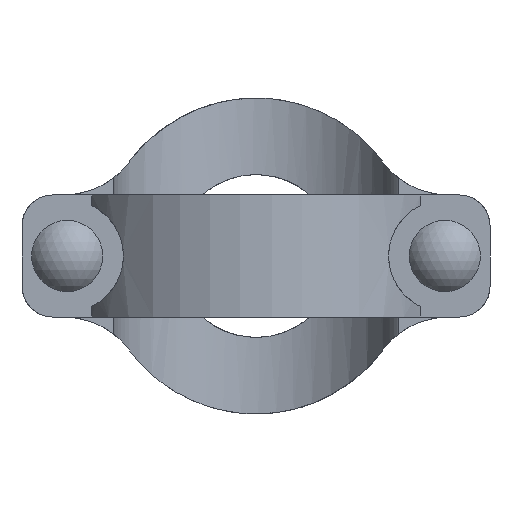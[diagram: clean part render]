
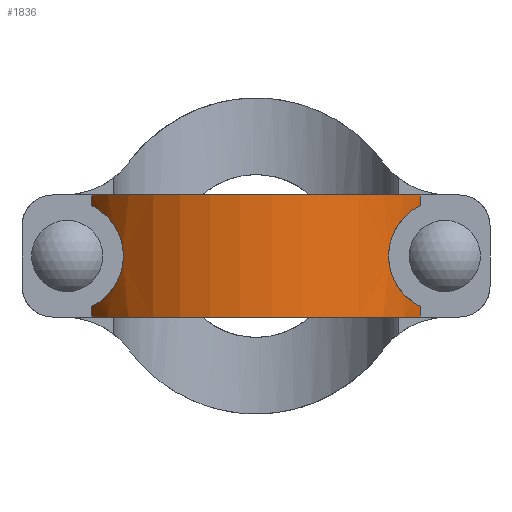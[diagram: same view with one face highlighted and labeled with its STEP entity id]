
A CAD part, front view. The second image highlights one B-rep face of the part: STEP entity #1836.
In plain terms, the highlighted cylindrical face has radius 57.15 mm (diameter 114.3 mm), a partial arc.
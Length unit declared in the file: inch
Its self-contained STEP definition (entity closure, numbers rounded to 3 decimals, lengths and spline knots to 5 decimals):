
#66=B_SPLINE_CURVE_WITH_KNOTS('',3,(#2702,#2703,#2704,#2705,#2706,#2707,
#2708,#2709,#2710,#2711,#2712,#2713,#2714,#2715,#2716,#2717,#2718,#2719,
#2720,#2721,#2722,#2723,#2724,#2725,#2726,#2727,#2728,#2729,#2730,#2731),
 .UNSPECIFIED.,.F.,.F.,(4,2,2,2,2,2,2,2,2,2,2,2,2,2,4),(1.03848,
1.21614,1.82421,2.43228,2.695,2.95772,
3.22043,3.48315,3.74587,4.00859,4.27131,
4.53403,5.1421,5.75017,5.92782),
 .UNSPECIFIED.);
#78=B_SPLINE_CURVE_WITH_KNOTS('',3,(#3223,#3224,#3225,#3226,#3227,#3228,
#3229,#3230,#3231,#3232,#3233,#3234,#3235,#3236,#3237,#3238,#3239,#3240,
#3241,#3242,#3243,#3244,#3245,#3246,#3247,#3248,#3249,#3250,#3251,#3252),
 .UNSPECIFIED.,.F.,.F.,(4,2,2,2,2,2,2,2,2,2,2,2,2,2,4),(1.03848,
1.21614,1.82421,2.43228,2.695,2.95772,
3.22043,3.48315,3.74587,4.00859,4.27131,
4.53403,5.1421,5.75017,5.92782),
 .UNSPECIFIED.);
#109=CYLINDRICAL_SURFACE('',#2005,2.25);
#194=FACE_OUTER_BOUND('',#291,.T.);
#291=EDGE_LOOP('',(#1417,#1418,#1419,#1420,#1421,#1422,#1423,#1424));
#434=LINE('',#3332,#581);
#435=LINE('',#3335,#582);
#436=LINE('',#3336,#583);
#437=LINE('',#3337,#584);
#581=VECTOR('',#2416,0.3937);
#582=VECTOR('',#2419,0.3937);
#583=VECTOR('',#2420,0.3937);
#584=VECTOR('',#2421,0.3937);
#674=CIRCLE('',#2004,2.25);
#675=CIRCLE('',#2006,2.25);
#727=VERTEX_POINT('',#2700);
#728=VERTEX_POINT('',#2701);
#796=VERTEX_POINT('',#3221);
#797=VERTEX_POINT('',#3222);
#820=VERTEX_POINT('',#3325);
#821=VERTEX_POINT('',#3327);
#822=VERTEX_POINT('',#3331);
#823=VERTEX_POINT('',#3333);
#911=EDGE_CURVE('',#727,#728,#66,.T.);
#1003=EDGE_CURVE('',#796,#797,#78,.T.);
#1042=EDGE_CURVE('',#820,#821,#674,.T.);
#1044=EDGE_CURVE('',#822,#728,#434,.T.);
#1045=EDGE_CURVE('',#823,#822,#675,.T.);
#1046=EDGE_CURVE('',#796,#823,#435,.T.);
#1047=EDGE_CURVE('',#821,#797,#436,.T.);
#1048=EDGE_CURVE('',#727,#820,#437,.T.);
#1417=ORIENTED_EDGE('',*,*,#911,.T.);
#1418=ORIENTED_EDGE('',*,*,#1044,.F.);
#1419=ORIENTED_EDGE('',*,*,#1045,.F.);
#1420=ORIENTED_EDGE('',*,*,#1046,.F.);
#1421=ORIENTED_EDGE('',*,*,#1003,.T.);
#1422=ORIENTED_EDGE('',*,*,#1047,.F.);
#1423=ORIENTED_EDGE('',*,*,#1042,.F.);
#1424=ORIENTED_EDGE('',*,*,#1048,.F.);
#1836=ADVANCED_FACE('',(#194),#109,.T.);
#2004=AXIS2_PLACEMENT_3D('',#3328,#2411,#2412);
#2005=AXIS2_PLACEMENT_3D('',#3330,#2414,#2415);
#2006=AXIS2_PLACEMENT_3D('',#3334,#2417,#2418);
#2411=DIRECTION('center_axis',(0.,0.,1.));
#2412=DIRECTION('ref_axis',(-0.896,-0.444,0.));
#2414=DIRECTION('center_axis',(0.,0.,1.));
#2415=DIRECTION('ref_axis',(-0.896,-0.444,0.));
#2416=DIRECTION('',(0.,0.,1.));
#2417=DIRECTION('center_axis',(0.,0.,-1.));
#2418=DIRECTION('ref_axis',(-0.896,-0.444,0.));
#2419=DIRECTION('',(0.,0.,-1.));
#2420=DIRECTION('',(0.,0.,-1.));
#2421=DIRECTION('',(0.,0.,1.));
#2700=CARTESIAN_POINT('',(-2.01556,-1.,0.61921));
#2701=CARTESIAN_POINT('',(-2.01556,-1.,-0.61921));
#2702=CARTESIAN_POINT('Ctrl Pts',(-2.01556,-1.,0.61921));
#2703=CARTESIAN_POINT('Ctrl Pts',(-2.00487,-1.02155,0.61395));
#2704=CARTESIAN_POINT('Ctrl Pts',(-1.99391,-1.04278,0.60822));
#2705=CARTESIAN_POINT('Ctrl Pts',(-1.94441,-1.13505,0.58048));
#2706=CARTESIAN_POINT('Ctrl Pts',(-1.9034,-1.20203,0.55273));
#2707=CARTESIAN_POINT('Ctrl Pts',(-1.82182,-1.32241,0.4805));
#2708=CARTESIAN_POINT('Ctrl Pts',(-1.78125,-1.37586,0.43613));
#2709=CARTESIAN_POINT('Ctrl Pts',(-1.72902,-1.44001,0.35729));
#2710=CARTESIAN_POINT('Ctrl Pts',(-1.71348,-1.4584,0.33058));
#2711=CARTESIAN_POINT('Ctrl Pts',(-1.68519,-1.491,0.27234));
#2712=CARTESIAN_POINT('Ctrl Pts',(-1.67245,-1.5052,0.2408));
#2713=CARTESIAN_POINT('Ctrl Pts',(-1.65158,-1.52808,0.17467));
#2714=CARTESIAN_POINT('Ctrl Pts',(-1.64343,-1.53679,0.14002));
#2715=CARTESIAN_POINT('Ctrl Pts',(-1.63264,-1.54824,0.06992));
#2716=CARTESIAN_POINT('Ctrl Pts',(-1.63,-1.551,0.03448));
#2717=CARTESIAN_POINT('Ctrl Pts',(-1.63,-1.551,-0.03448));
#2718=CARTESIAN_POINT('Ctrl Pts',(-1.63264,-1.54824,-0.06992));
#2719=CARTESIAN_POINT('Ctrl Pts',(-1.64343,-1.53679,-0.14002));
#2720=CARTESIAN_POINT('Ctrl Pts',(-1.65158,-1.52808,-0.17467));
#2721=CARTESIAN_POINT('Ctrl Pts',(-1.67245,-1.5052,-0.2408));
#2722=CARTESIAN_POINT('Ctrl Pts',(-1.68519,-1.491,-0.27234));
#2723=CARTESIAN_POINT('Ctrl Pts',(-1.71348,-1.4584,-0.33058));
#2724=CARTESIAN_POINT('Ctrl Pts',(-1.72902,-1.44001,-0.35729));
#2725=CARTESIAN_POINT('Ctrl Pts',(-1.78125,-1.37586,-0.43613));
#2726=CARTESIAN_POINT('Ctrl Pts',(-1.82182,-1.32241,-0.4805));
#2727=CARTESIAN_POINT('Ctrl Pts',(-1.9034,-1.20203,-0.55273));
#2728=CARTESIAN_POINT('Ctrl Pts',(-1.94441,-1.13505,-0.58048));
#2729=CARTESIAN_POINT('Ctrl Pts',(-1.99391,-1.04278,-0.60822));
#2730=CARTESIAN_POINT('Ctrl Pts',(-2.00487,-1.02155,-0.61395));
#2731=CARTESIAN_POINT('Ctrl Pts',(-2.01556,-1.,-0.61921));
#3221=CARTESIAN_POINT('',(2.01556,-1.,-0.61921));
#3222=CARTESIAN_POINT('',(2.01556,-1.,0.61921));
#3223=CARTESIAN_POINT('Ctrl Pts',(2.01556,-1.,-0.61921));
#3224=CARTESIAN_POINT('Ctrl Pts',(2.00487,-1.02155,-0.61395));
#3225=CARTESIAN_POINT('Ctrl Pts',(1.99391,-1.04278,-0.60822));
#3226=CARTESIAN_POINT('Ctrl Pts',(1.94441,-1.13505,-0.58048));
#3227=CARTESIAN_POINT('Ctrl Pts',(1.9034,-1.20203,-0.55273));
#3228=CARTESIAN_POINT('Ctrl Pts',(1.82182,-1.32241,-0.4805));
#3229=CARTESIAN_POINT('Ctrl Pts',(1.78125,-1.37586,-0.43613));
#3230=CARTESIAN_POINT('Ctrl Pts',(1.72902,-1.44001,-0.35729));
#3231=CARTESIAN_POINT('Ctrl Pts',(1.71348,-1.4584,-0.33058));
#3232=CARTESIAN_POINT('Ctrl Pts',(1.68519,-1.491,-0.27234));
#3233=CARTESIAN_POINT('Ctrl Pts',(1.67245,-1.5052,-0.2408));
#3234=CARTESIAN_POINT('Ctrl Pts',(1.65158,-1.52808,-0.17467));
#3235=CARTESIAN_POINT('Ctrl Pts',(1.64343,-1.53679,-0.14002));
#3236=CARTESIAN_POINT('Ctrl Pts',(1.63264,-1.54824,-0.06992));
#3237=CARTESIAN_POINT('Ctrl Pts',(1.63,-1.551,-0.03448));
#3238=CARTESIAN_POINT('Ctrl Pts',(1.63,-1.551,0.03448));
#3239=CARTESIAN_POINT('Ctrl Pts',(1.63264,-1.54824,0.06992));
#3240=CARTESIAN_POINT('Ctrl Pts',(1.64343,-1.53679,0.14002));
#3241=CARTESIAN_POINT('Ctrl Pts',(1.65158,-1.52808,0.17467));
#3242=CARTESIAN_POINT('Ctrl Pts',(1.67245,-1.5052,0.2408));
#3243=CARTESIAN_POINT('Ctrl Pts',(1.68519,-1.491,0.27234));
#3244=CARTESIAN_POINT('Ctrl Pts',(1.71348,-1.4584,0.33058));
#3245=CARTESIAN_POINT('Ctrl Pts',(1.72902,-1.44001,0.35729));
#3246=CARTESIAN_POINT('Ctrl Pts',(1.78125,-1.37586,0.43613));
#3247=CARTESIAN_POINT('Ctrl Pts',(1.82182,-1.32241,0.4805));
#3248=CARTESIAN_POINT('Ctrl Pts',(1.9034,-1.20203,0.55273));
#3249=CARTESIAN_POINT('Ctrl Pts',(1.94441,-1.13505,0.58048));
#3250=CARTESIAN_POINT('Ctrl Pts',(1.99391,-1.04278,0.60822));
#3251=CARTESIAN_POINT('Ctrl Pts',(2.00487,-1.02155,0.61395));
#3252=CARTESIAN_POINT('Ctrl Pts',(2.01556,-1.,0.61921));
#3325=CARTESIAN_POINT('',(-2.01556,-1.,0.75));
#3327=CARTESIAN_POINT('',(2.01556,-1.,0.75));
#3328=CARTESIAN_POINT('Origin',(0.,0.,0.75));
#3330=CARTESIAN_POINT('Origin',(0.,0.,0.));
#3331=CARTESIAN_POINT('',(-2.01556,-1.,-0.75));
#3332=CARTESIAN_POINT('',(-2.01556,-1.,0.));
#3333=CARTESIAN_POINT('',(2.01556,-1.,-0.75));
#3334=CARTESIAN_POINT('Origin',(0.,0.,-0.75));
#3335=CARTESIAN_POINT('',(2.01556,-1.,0.));
#3336=CARTESIAN_POINT('',(2.01556,-1.,0.));
#3337=CARTESIAN_POINT('',(-2.01556,-1.,0.));
